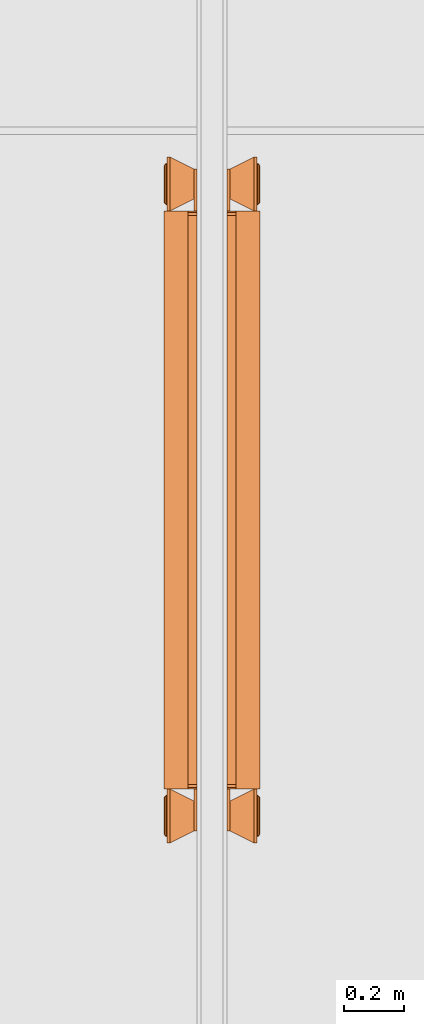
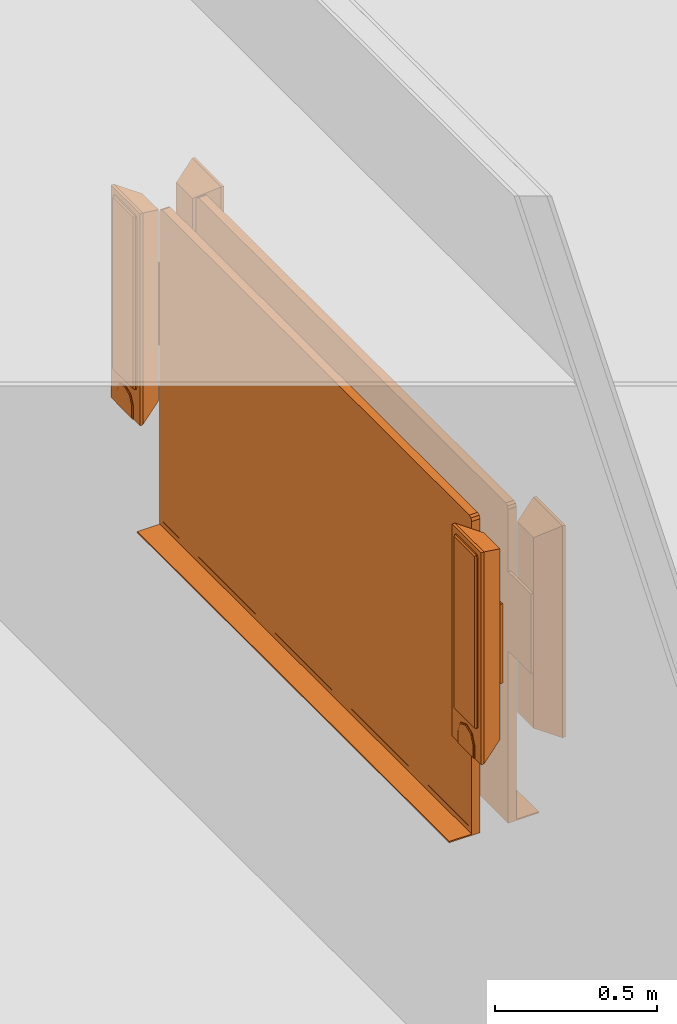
# One storey, part 87 of 167: 2 proxies.
"""IFC2X3 building model written with IfcOpenShell, lengths in millimetres."""

from ifc_helpers import new_model, entity, si_unit, converted_unit, derived_unit, money_unit, direction, frame, origin_with_axes, place, context, subcontext, project, spatial, faceted_brep, source, transform, mapped, type_object, type_shapes, element, save


model = new_model("IFC2X3")

# Units and contexts
model_context = context("Model", 3, precision=0.01, world=origin_with_axes(), true_north=direction((0.0, 1.0)))
plan_context = context("Plan", 3, precision=0.01, world=origin_with_axes(), true_north=direction((0.0, 1.0)))
body_context = subcontext(model_context, "Body", "Model", "MODEL_VIEW")
ifc_project = project(units=[si_unit("LENGTHUNIT", "METRE", prefix="MILLI"), si_unit("AREAUNIT", "SQUARE_METRE"), si_unit("VOLUMEUNIT", "CUBIC_METRE"), converted_unit("PLANEANGLEUNIT", "DEGREE", entity("IfcPlaneAngleMeasure", 0.0174532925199), si_unit("PLANEANGLEUNIT", "RADIAN"), dimensions=[0, 0, 0, 0, 0, 0, 0]), si_unit("SOLIDANGLEUNIT", "STERADIAN"), money_unit("EUR"), converted_unit("TIMEUNIT", "Year", entity("IfcTimeMeasure", 31556926.0), si_unit("TIMEUNIT", "SECOND"), dimensions=[0, 0, 1, 0, 0, 0, 0]), si_unit("MASSUNIT", "GRAM", prefix="KILO"), si_unit("THERMODYNAMICTEMPERATUREUNIT", "DEGREE_CELSIUS"), si_unit("LUMINOUSINTENSITYUNIT", "LUMEN"), si_unit("ENERGYUNIT", "JOULE", prefix="MEGA"), derived_unit("THERMALCONDUCTANCEUNIT", [(si_unit("POWERUNIT", "WATT"), 1), (si_unit("LENGTHUNIT", "METRE"), -1), (si_unit("THERMODYNAMICTEMPERATUREUNIT", "KELVIN"), -1)]), derived_unit("SPECIFICHEATCAPACITYUNIT", [(si_unit("ENERGYUNIT", "JOULE"), 1), (si_unit("MASSUNIT", "GRAM", prefix="KILO"), -1), (si_unit("THERMODYNAMICTEMPERATUREUNIT", "KELVIN"), -1)]), derived_unit("MASSDENSITYUNIT", [(si_unit("MASSUNIT", "GRAM", prefix="KILO"), 1), (si_unit("VOLUMEUNIT", "CUBIC_METRE"), -1)])], contexts=[model_context, plan_context])

# Site, building, storey
site_placement = place(None, origin_with_axes())
site = spatial("IfcSite", under=ifc_project, at=site_placement, Name="Site", CompositionType="ELEMENT")
building_placement = place(site_placement, origin_with_axes())
building = spatial("IfcBuilding", under=site, at=building_placement, Name="Naam gebouw", CompositionType="ELEMENT")
storey_placement = place(building_placement, origin_with_axes())
storey = spatial("IfcBuildingStorey", under=building, at=storey_placement, Name="Begane grond", CompositionType="ELEMENT", Elevation=0.0)

# Proxies
building_element_proxy_type = type_object("IfcBuildingElementProxyType", Name="Digitaal bord 24", PredefinedType="NOTDEFINED")
shared_shape_1 = source(origin_with_axes(), body_context, "Body", "Brep", [
    faceted_brep([(0.0, 0.0, 1000.0), (1930.0, 0.0, 1000.0), (1930.0, -30.0, 1000.0), (0.0, -30.0, 1000.0), (0.0, 0.0, 2185.0), (4.3933982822, 0.0, 2195.60660172), (15.0, 0.0, 2200.0), (1915.0, 0.0, 2200.0), (1925.60660172, 0.0, 2195.60660172), (1930.0, 0.0, 2185.0), (20.0, 0.0, 1025.0), (1910.0, 0.0, 1025.0), (1910.0, 0.0, 2180.0), (20.0, 0.0, 2180.0), (1930.0, -30.0, 2185.0), (1925.60660172, -30.0, 2195.60660172), (1915.0, -30.0, 2200.0), (15.0, -30.0, 2200.0), (4.3933982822, -30.0, 2195.60660172), (0.0, -30.0, 2185.0), (20.0, -30.0, 1025.0), (20.0, -30.0, 2180.0), (1910.0, -30.0, 2180.0), (1910.0, -30.0, 1025.0)], [[[0, 1, 2, 3]], [[0, 4, 5, 6, 7, 8, 9, 1], [10, 11, 12, 13]], [[1, 9, 14, 2]], [[3, 2, 14, 15, 16, 17, 18, 19], [20, 21, 22, 23]], [[4, 0, 3, 19]], [[5, 4, 19, 18]], [[6, 5, 18, 17]], [[7, 6, 17, 16]], [[8, 7, 16, 15]], [[9, 8, 15, 14]], [[11, 10, 20, 23]], [[12, 11, 23, 22]], [[13, 12, 22, 21]], [[10, 13, 21, 20]]]),
    faceted_brep([(20.0, 0.0, 1025.0), (1910.0, 0.0, 1025.0), (1910.0, -29.0, 1025.0), (20.0, -29.0, 1025.0), (20.0, 0.0, 2180.0), (1910.0, 0.0, 2180.0), (1910.0, -29.0, 2180.0), (20.0, -29.0, 2180.0)], [[[0, 1, 2, 3]], [[0, 4, 5, 1]], [[1, 5, 6, 2]], [[3, 2, 6, 7]], [[4, 0, 3, 7]], [[5, 4, 7, 6]]]),
    faceted_brep([(1930.0, -110.0, 1000.0), (0.0, -110.0, 1000.0), (0.0, -30.0, 1000.0), (1930.0, -30.0, 1000.0), (1930.0, -110.0, 1005.0), (0.0, -110.0, 1005.0), (0.0, -30.0, 1005.0), (1930.0, -30.0, 1005.0)], [[[0, 1, 2, 3]], [[1, 0, 4, 5]], [[2, 1, 5, 6]], [[3, 2, 6, 7]], [[0, 3, 7, 4]], [[5, 4, 7, 6]]]),
    faceted_brep([(0.0, -10.0, 1650.0), (-140.0, -10.0, 1650.0), (-140.0, 0.0, 1650.0), (0.0, 0.0, 1650.0), (0.0, -10.0, 1950.0), (-140.0, -10.0, 1950.0), (-140.0, 0.0, 1950.0), (0.0, 0.0, 1950.0)], [[[0, 1, 2, 3]], [[1, 0, 4, 5]], [[2, 1, 5, 6]], [[3, 2, 6, 7]], [[0, 3, 7, 4]], [[5, 4, 7, 6]]]),
    faceted_brep([(0.0, -100.0, 2200.0), (-180.0, -100.0, 2200.0), (-180.0, -100.0, 1400.0), (0.0, -100.0, 1400.0), (2.43782993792e-07, -90.0, 2200.00000039), (-180.00000039, -90.0, 2200.00000039), (-180.00000039, -90.0, 1399.99999964), (2.43782993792e-07, -90.0, 1399.99999964), (-39.9999997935, -9.99999992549, 2160.00000035), (-140.000000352, -9.99999992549, 2160.00000035), (-140.000000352, -9.99999992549, 1439.99999968), (-39.9999997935, -9.99999992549, 1439.99999968)], [[[0, 1, 2, 3]], [[1, 0, 4, 5]], [[2, 1, 5, 6]], [[3, 2, 6, 7]], [[0, 3, 7, 4]], [[5, 4, 8, 9]], [[6, 5, 9, 10]], [[7, 6, 10, 11]], [[4, 7, 11, 8]], [[10, 9, 8, 11]]]),
    faceted_brep([(-157.071067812, -100.0, 1522.92893219), (-160.0, -100.0, 1530.0), (-160.0, -100.0, 2170.0), (-157.071067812, -100.0, 2177.07106781), (-150.0, -100.0, 2180.0), (-30.0, -100.0, 2180.0), (-22.9289321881, -100.0, 2177.07106781), (-20.0, -100.0, 2170.0), (-20.0, -100.0, 1530.0), (-22.9289321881, -100.0, 1522.92893219), (-30.0, -100.0, 1520.0), (-150.0, -100.0, 1520.0), (-156.488467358, -103.826834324, 1523.51153264), (-159.238795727, -103.826834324, 1530.15141333), (-159.238795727, -103.826834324, 2169.84858696), (-156.488467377, -103.826834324, 2176.48846672), (-149.848586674, -103.826834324, 2179.2387951), (-30.1514125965, -103.826834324, 2179.2387951), (-23.5115328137, -103.826834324, 2176.48846674), (-20.761204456, -103.826834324, 2169.84858696), (-20.761204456, -103.826834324, 1530.15141333), (-23.5115328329, -103.826834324, 1523.51153262), (-30.1514125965, -103.826834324, 1520.76120427), (-149.848586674, -103.826834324, 1520.76120427), (-152.346331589, -109.238795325, 1527.65366841), (-153.826834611, -109.238795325, 1531.22791923), (-153.826834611, -109.238795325, 2168.77208092), (-152.346331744, -109.238795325, 2172.34633089), (-148.772080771, -109.238795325, 2173.82683398), (-31.2279186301, -109.238795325, 2173.82683398), (-27.6536685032, -109.238795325, 2172.34633105), (-26.1731655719, -109.238795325, 2168.77208092), (-26.1731655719, -109.238795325, 1531.22791923), (-27.6536686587, -109.238795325, 1527.65366826), (-31.2279186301, -109.238795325, 1526.17316539), (-148.772080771, -109.238795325, 1526.17316539), (-149.41740042, -109.999999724, 1530.58259958), (-150.000001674, -109.999999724, 1531.98912356), (-150.000001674, -109.999999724, 2168.0108765), (-149.417400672, -109.999999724, 2169.41739969), (-148.010876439, -109.999999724, 2170.00000104), (-31.9891230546, -109.999999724, 2170.00000104), (-30.5825996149, -109.999999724, 2169.41739994), (-29.9999985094, -109.999999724, 2168.0108765), (-29.9999985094, -109.999999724, 1531.98912356), (-30.5825998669, -109.999999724, 1530.58259933), (-31.9891230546, -109.999999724, 1529.99999833), (-148.010876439, -109.999999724, 1529.99999833)], [[[0, 1, 2, 3, 4, 5, 6, 7, 8, 9, 10, 11]], [[1, 0, 12, 13]], [[2, 1, 13, 14]], [[3, 2, 14, 15]], [[4, 3, 15, 16]], [[5, 4, 16, 17]], [[6, 5, 17, 18]], [[7, 6, 18, 19]], [[8, 7, 19, 20]], [[9, 8, 20, 21]], [[10, 9, 21, 22]], [[11, 10, 22, 23]], [[0, 11, 23, 12]], [[13, 12, 24, 25]], [[14, 13, 25, 26]], [[15, 14, 26, 27]], [[16, 15, 27, 28]], [[17, 16, 28, 29]], [[18, 17, 29, 30]], [[19, 18, 30, 31]], [[20, 19, 31, 32]], [[21, 20, 32, 33]], [[22, 21, 33, 34]], [[23, 22, 34, 35]], [[12, 23, 35, 24]], [[25, 24, 36, 37]], [[26, 25, 37, 38]], [[27, 26, 38, 39]], [[28, 27, 39, 40]], [[29, 28, 40, 41]], [[30, 29, 41, 42]], [[31, 30, 42, 43]], [[32, 31, 43, 44]], [[33, 32, 44, 45]], [[34, 33, 45, 46]], [[35, 34, 46, 47]], [[24, 35, 47, 36]], [[39, 38, 37, 36, 47, 46, 45, 44, 43, 42, 41, 40]]]),
    faceted_brep([(-40.0, -100.0, 1400.0), (-140.0, -100.0, 1400.0), (-140.0, -100.0, 1450.0), (-125.355339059, -100.0, 1485.35533906), (-90.0, -100.0, 1500.0), (-54.6446609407, -100.0, 1485.35533906), (-40.0, -100.0, 1450.0), (-40.380602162, -101.913417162, 1400.38060194), (-139.619398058, -101.913417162, 1400.38060194), (-139.619398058, -101.913417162, 1449.92429384), (-125.064038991, -101.913417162, 1485.06403877), (-89.9999996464, -101.913417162, 1499.58803917), (-54.9359612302, -101.913417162, 1485.06403877), (-40.380602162, -101.913417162, 1449.92429384), (-43.0865822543, -104.619397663, 1403.08658203), (-136.913417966, -104.619397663, 1403.08658203), (-136.913417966, -104.619397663, 1449.38604093), (-122.9929715, -104.619397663, 1482.99297126), (-89.99999966, -104.619397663, 1496.65910743), (-57.0070287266, -104.619397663, 1482.99297127), (-43.0865822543, -104.619397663, 1449.38604093), (-45.0000010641, -105.000000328, 1405.00000084), (-134.999999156, -105.000000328, 1405.00000084), (-134.999999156, -105.000000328, 1449.00543826), (-121.528504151, -105.000000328, 1481.52850389), (-89.9999996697, -105.000000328, 1494.58803784), (-58.4714960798, -105.000000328, 1481.52850392), (-45.0000010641, -105.000000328, 1449.00543826)], [[[0, 1, 2, 3, 4, 5, 6]], [[1, 0, 7, 8]], [[2, 1, 8, 9]], [[3, 2, 9, 10]], [[4, 3, 10, 11]], [[5, 4, 11, 12]], [[6, 5, 12, 13]], [[0, 6, 13, 7]], [[8, 7, 14, 15]], [[9, 8, 15, 16]], [[10, 9, 16, 17]], [[11, 10, 17, 18]], [[12, 11, 18, 19]], [[13, 12, 19, 20]], [[7, 13, 20, 14]], [[15, 14, 21, 22]], [[16, 15, 22, 23]], [[17, 16, 23, 24]], [[18, 17, 24, 25]], [[19, 18, 25, 26]], [[20, 19, 26, 27]], [[14, 20, 27, 21]], [[24, 23, 22, 21, 27, 26, 25]]]),
    faceted_brep([(1930.0, -10.0, 1650.0), (1930.0, 0.0, 1650.0), (2070.0, 0.0, 1650.0), (2070.0, -10.0, 1650.0), (1930.0, -10.0, 1950.0), (1930.0, 0.0, 1950.0), (2070.0, 0.0, 1950.0), (2070.0, -10.0, 1950.0)], [[[0, 1, 2, 3]], [[0, 4, 5, 1]], [[1, 5, 6, 2]], [[2, 6, 7, 3]], [[3, 7, 4, 0]], [[7, 6, 5, 4]]]),
    faceted_brep([(1930.0, -100.0, 2200.0), (1930.0, -100.0, 1400.0), (2110.0, -100.0, 1400.0), (2110.0, -100.0, 2200.0), (1929.99999976, -90.0, 2200.00000039), (1929.99999976, -90.0, 1399.99999964), (2110.00000039, -90.0, 1399.99999964), (2110.00000039, -90.0, 2200.00000039), (1969.99999979, -9.99999992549, 2160.00000035), (1969.99999979, -9.99999992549, 1439.99999968), (2070.00000035, -9.99999992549, 1439.99999968), (2070.00000035, -9.99999992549, 2160.00000035)], [[[0, 1, 2, 3]], [[0, 4, 5, 1]], [[1, 5, 6, 2]], [[2, 6, 7, 3]], [[3, 7, 4, 0]], [[4, 8, 9, 5]], [[5, 9, 10, 6]], [[6, 10, 11, 7]], [[7, 11, 8, 4]], [[10, 9, 8, 11]]]),
    faceted_brep([(2087.07106781, -100.0, 1522.92893219), (2080.0, -100.0, 1520.0), (1960.0, -100.0, 1520.0), (1952.92893219, -100.0, 1522.92893219), (1950.0, -100.0, 1530.0), (1950.0, -100.0, 2170.0), (1952.92893219, -100.0, 2177.07106781), (1960.0, -100.0, 2180.0), (2080.0, -100.0, 2180.0), (2087.07106781, -100.0, 2177.07106781), (2090.0, -100.0, 2170.0), (2090.0, -100.0, 1530.0), (2086.48846736, -103.826834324, 1523.51153264), (2079.84858667, -103.826834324, 1520.76120427), (1960.1514126, -103.826834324, 1520.76120427), (1953.51153283, -103.826834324, 1523.51153262), (1950.76120446, -103.826834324, 1530.15141333), (1950.76120446, -103.826834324, 2169.84858696), (1953.51153281, -103.826834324, 2176.48846674), (1960.1514126, -103.826834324, 2179.2387951), (2079.84858667, -103.826834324, 2179.2387951), (2086.48846738, -103.826834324, 2176.48846672), (2089.23879573, -103.826834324, 2169.84858696), (2089.23879573, -103.826834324, 1530.15141333), (2082.34633159, -109.238795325, 1527.65366841), (2078.77208077, -109.238795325, 1526.17316539), (1961.22791863, -109.238795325, 1526.17316539), (1957.65366866, -109.238795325, 1527.65366826), (1956.17316557, -109.238795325, 1531.22791923), (1956.17316557, -109.238795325, 2168.77208092), (1957.6536685, -109.238795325, 2172.34633105), (1961.22791863, -109.238795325, 2173.82683398), (2078.77208077, -109.238795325, 2173.82683398), (2082.34633174, -109.238795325, 2172.34633089), (2083.82683461, -109.238795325, 2168.77208092), (2083.82683461, -109.238795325, 1531.22791923), (2079.41740042, -109.999999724, 1530.58259958), (2078.01087644, -109.999999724, 1529.99999833), (1961.98912305, -109.999999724, 1529.99999833), (1960.58259987, -109.999999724, 1530.58259933), (1959.99999851, -109.999999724, 1531.98912356), (1959.99999851, -109.999999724, 2168.0108765), (1960.58259961, -109.999999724, 2169.41739994), (1961.98912305, -109.999999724, 2170.00000104), (2078.01087644, -109.999999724, 2170.00000104), (2079.41740067, -109.999999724, 2169.41739969), (2080.00000167, -109.999999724, 2168.0108765), (2080.00000167, -109.999999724, 1531.98912356)], [[[0, 1, 2, 3, 4, 5, 6, 7, 8, 9, 10, 11]], [[0, 12, 13, 1]], [[1, 13, 14, 2]], [[2, 14, 15, 3]], [[3, 15, 16, 4]], [[4, 16, 17, 5]], [[5, 17, 18, 6]], [[6, 18, 19, 7]], [[7, 19, 20, 8]], [[8, 20, 21, 9]], [[9, 21, 22, 10]], [[10, 22, 23, 11]], [[11, 23, 12, 0]], [[12, 24, 25, 13]], [[13, 25, 26, 14]], [[14, 26, 27, 15]], [[15, 27, 28, 16]], [[16, 28, 29, 17]], [[17, 29, 30, 18]], [[18, 30, 31, 19]], [[19, 31, 32, 20]], [[20, 32, 33, 21]], [[21, 33, 34, 22]], [[22, 34, 35, 23]], [[23, 35, 24, 12]], [[24, 36, 37, 25]], [[25, 37, 38, 26]], [[26, 38, 39, 27]], [[27, 39, 40, 28]], [[28, 40, 41, 29]], [[29, 41, 42, 30]], [[30, 42, 43, 31]], [[31, 43, 44, 32]], [[32, 44, 45, 33]], [[33, 45, 46, 34]], [[34, 46, 47, 35]], [[35, 47, 36, 24]], [[45, 44, 43, 42, 41, 40, 39, 38, 37, 36, 47, 46]]]),
    faceted_brep([(1970.0, -100.0, 1400.0), (1970.0, -100.0, 1450.0), (1984.64466094, -100.0, 1485.35533906), (2020.0, -100.0, 1500.0), (2055.35533906, -100.0, 1485.35533906), (2070.0, -100.0, 1450.0), (2070.0, -100.0, 1400.0), (1970.38060216, -101.913417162, 1400.38060194), (1970.38060216, -101.913417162, 1449.92429384), (1984.93596123, -101.913417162, 1485.06403877), (2019.99999965, -101.913417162, 1499.58803917), (2055.06403899, -101.913417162, 1485.06403877), (2069.61939806, -101.913417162, 1449.92429384), (2069.61939806, -101.913417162, 1400.38060194), (1973.08658225, -104.619397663, 1403.08658203), (1973.08658225, -104.619397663, 1449.38604093), (1987.00702873, -104.619397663, 1482.99297127), (2019.99999966, -104.619397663, 1496.65910743), (2052.9929715, -104.619397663, 1482.99297126), (2066.91341797, -104.619397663, 1449.38604093), (2066.91341797, -104.619397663, 1403.08658203), (1975.00000106, -105.000000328, 1405.00000084), (1975.00000106, -105.000000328, 1449.00543826), (1988.47149608, -105.000000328, 1481.52850392), (2019.99999967, -105.000000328, 1494.58803784), (2051.52850415, -105.000000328, 1481.52850389), (2064.99999916, -105.000000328, 1449.00543826), (2064.99999916, -105.000000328, 1405.00000084)], [[[0, 1, 2, 3, 4, 5, 6]], [[0, 7, 8, 1]], [[1, 8, 9, 2]], [[2, 9, 10, 3]], [[3, 10, 11, 4]], [[4, 11, 12, 5]], [[5, 12, 13, 6]], [[6, 13, 7, 0]], [[7, 14, 15, 8]], [[8, 15, 16, 9]], [[9, 16, 17, 10]], [[10, 17, 18, 11]], [[11, 18, 19, 12]], [[12, 19, 20, 13]], [[13, 20, 14, 7]], [[14, 21, 22, 15]], [[15, 22, 23, 16]], [[16, 23, 24, 17]], [[17, 24, 25, 18]], [[18, 25, 26, 19]], [[19, 26, 27, 20]], [[20, 27, 21, 14]], [[25, 24, 23, 22, 21, 27, 26]]]),
])
proxy_1_placement = place(storey_placement, frame((21550.0, 4892.99531028, 0.0), z_axis=(0.0, 0.0, 1.0), x_axis=(0.0, -1.0, 0.0)))
element("IfcBuildingElementProxy", 1, at=proxy_1_placement, inside=storey, type_object=building_element_proxy_type, Name="__object-x", context=body_context, shape_type="MappedRepresentation", body=[
    mapped(shared_shape_1, transform((0.0, 0.0, 0.0))),
])
shared_shape_2 = source(origin_with_axes(), body_context, "Body", "Brep", [
    faceted_brep([(0.0, 0.0, 1000.0), (0.0, -30.0, 1000.0), (-1930.0, -30.0, 1000.0), (-1930.0, 0.0, 1000.0), (0.0, 0.0, 2185.0), (0.0, -30.0, 2185.0), (-4.3933982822, -30.0, 2195.60660172), (-15.0, -30.0, 2200.0), (-1915.0, -30.0, 2200.0), (-1925.60660172, -30.0, 2195.60660172), (-1930.0, -30.0, 2185.0), (-20.0, -30.0, 1025.0), (-1910.0, -30.0, 1025.0), (-1910.0, -30.0, 2180.0), (-20.0, -30.0, 2180.0), (-1930.0, 0.0, 2185.0), (-1925.60660172, 0.0, 2195.60660172), (-1915.0, 0.0, 2200.0), (-15.0, 0.0, 2200.0), (-4.3933982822, 0.0, 2195.60660172), (-20.0, 0.0, 1025.0), (-20.0, 0.0, 2180.0), (-1910.0, 0.0, 2180.0), (-1910.0, 0.0, 1025.0)], [[[0, 1, 2, 3]], [[4, 5, 1, 0]], [[1, 5, 6, 7, 8, 9, 10, 2], [11, 12, 13, 14]], [[3, 2, 10, 15]], [[0, 3, 15, 16, 17, 18, 19, 4], [20, 21, 22, 23]], [[19, 6, 5, 4]], [[18, 7, 6, 19]], [[17, 8, 7, 18]], [[16, 9, 8, 17]], [[15, 10, 9, 16]], [[23, 12, 11, 20]], [[22, 13, 12, 23]], [[21, 14, 13, 22]], [[20, 11, 14, 21]]]),
    faceted_brep([(-20.0, 0.0, 1025.0), (-20.0, -29.0, 1025.0), (-1910.0, -29.0, 1025.0), (-1910.0, 0.0, 1025.0), (-20.0, 0.0, 2180.0), (-20.0, -29.0, 2180.0), (-1910.0, -29.0, 2180.0), (-1910.0, 0.0, 2180.0)], [[[0, 1, 2, 3]], [[4, 5, 1, 0]], [[1, 5, 6, 2]], [[3, 2, 6, 7]], [[0, 3, 7, 4]], [[7, 6, 5, 4]]]),
    faceted_brep([(-1930.0, -110.0, 1000.0), (-1930.0, -30.0, 1000.0), (0.0, -30.0, 1000.0), (0.0, -110.0, 1000.0), (-1930.0, -110.0, 1005.0), (-1930.0, -30.0, 1005.0), (0.0, -30.0, 1005.0), (0.0, -110.0, 1005.0)], [[[0, 1, 2, 3]], [[0, 4, 5, 1]], [[1, 5, 6, 2]], [[2, 6, 7, 3]], [[3, 7, 4, 0]], [[7, 6, 5, 4]]]),
    faceted_brep([(0.0, -10.0, 1650.0), (0.0, 0.0, 1650.0), (140.0, 0.0, 1650.0), (140.0, -10.0, 1650.0), (0.0, -10.0, 1950.0), (0.0, 0.0, 1950.0), (140.0, 0.0, 1950.0), (140.0, -10.0, 1950.0)], [[[0, 1, 2, 3]], [[0, 4, 5, 1]], [[1, 5, 6, 2]], [[2, 6, 7, 3]], [[3, 7, 4, 0]], [[7, 6, 5, 4]]]),
    faceted_brep([(0.0, -100.0, 2200.0), (0.0, -100.0, 1400.0), (180.0, -100.0, 1400.0), (180.0, -100.0, 2200.0), (-2.43782993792e-07, -90.0, 2200.00000039), (-2.43782993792e-07, -90.0, 1399.99999964), (180.00000039, -90.0, 1399.99999964), (180.00000039, -90.0, 2200.00000039), (39.9999997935, -9.99999992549, 2160.00000035), (39.9999997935, -9.99999992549, 1439.99999968), (140.000000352, -9.99999992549, 1439.99999968), (140.000000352, -9.99999992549, 2160.00000035)], [[[0, 1, 2, 3]], [[0, 4, 5, 1]], [[1, 5, 6, 2]], [[2, 6, 7, 3]], [[3, 7, 4, 0]], [[4, 8, 9, 5]], [[5, 9, 10, 6]], [[6, 10, 11, 7]], [[7, 11, 8, 4]], [[10, 9, 8, 11]]]),
    faceted_brep([(157.071067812, -100.0, 1522.92893219), (150.0, -100.0, 1520.0), (30.0, -100.0, 1520.0), (22.9289321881, -100.0, 1522.92893219), (20.0, -100.0, 1530.0), (20.0, -100.0, 2170.0), (22.9289321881, -100.0, 2177.07106781), (30.0, -100.0, 2180.0), (150.0, -100.0, 2180.0), (157.071067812, -100.0, 2177.07106781), (160.0, -100.0, 2170.0), (160.0, -100.0, 1530.0), (156.488467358, -103.826834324, 1523.51153264), (149.848586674, -103.826834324, 1520.76120427), (30.1514125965, -103.826834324, 1520.76120427), (23.5115328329, -103.826834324, 1523.51153262), (20.761204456, -103.826834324, 1530.15141333), (20.761204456, -103.826834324, 2169.84858696), (23.5115328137, -103.826834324, 2176.48846674), (30.1514125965, -103.826834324, 2179.2387951), (149.848586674, -103.826834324, 2179.2387951), (156.488467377, -103.826834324, 2176.48846672), (159.238795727, -103.826834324, 2169.84858696), (159.238795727, -103.826834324, 1530.15141333), (152.346331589, -109.238795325, 1527.65366841), (148.772080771, -109.238795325, 1526.17316539), (31.2279186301, -109.238795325, 1526.17316539), (27.6536686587, -109.238795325, 1527.65366826), (26.1731655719, -109.238795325, 1531.22791923), (26.1731655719, -109.238795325, 2168.77208092), (27.6536685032, -109.238795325, 2172.34633105), (31.2279186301, -109.238795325, 2173.82683398), (148.772080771, -109.238795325, 2173.82683398), (152.346331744, -109.238795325, 2172.34633089), (153.826834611, -109.238795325, 2168.77208092), (153.826834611, -109.238795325, 1531.22791923), (149.41740042, -109.999999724, 1530.58259958), (148.010876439, -109.999999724, 1529.99999833), (31.9891230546, -109.999999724, 1529.99999833), (30.5825998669, -109.999999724, 1530.58259933), (29.9999985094, -109.999999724, 1531.98912356), (29.9999985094, -109.999999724, 2168.0108765), (30.5825996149, -109.999999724, 2169.41739994), (31.9891230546, -109.999999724, 2170.00000104), (148.010876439, -109.999999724, 2170.00000104), (149.417400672, -109.999999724, 2169.41739969), (150.000001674, -109.999999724, 2168.0108765), (150.000001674, -109.999999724, 1531.98912356)], [[[0, 1, 2, 3, 4, 5, 6, 7, 8, 9, 10, 11]], [[0, 12, 13, 1]], [[1, 13, 14, 2]], [[2, 14, 15, 3]], [[3, 15, 16, 4]], [[4, 16, 17, 5]], [[5, 17, 18, 6]], [[6, 18, 19, 7]], [[7, 19, 20, 8]], [[8, 20, 21, 9]], [[9, 21, 22, 10]], [[10, 22, 23, 11]], [[11, 23, 12, 0]], [[12, 24, 25, 13]], [[13, 25, 26, 14]], [[14, 26, 27, 15]], [[15, 27, 28, 16]], [[16, 28, 29, 17]], [[17, 29, 30, 18]], [[18, 30, 31, 19]], [[19, 31, 32, 20]], [[20, 32, 33, 21]], [[21, 33, 34, 22]], [[22, 34, 35, 23]], [[23, 35, 24, 12]], [[24, 36, 37, 25]], [[25, 37, 38, 26]], [[26, 38, 39, 27]], [[27, 39, 40, 28]], [[28, 40, 41, 29]], [[29, 41, 42, 30]], [[30, 42, 43, 31]], [[31, 43, 44, 32]], [[32, 44, 45, 33]], [[33, 45, 46, 34]], [[34, 46, 47, 35]], [[35, 47, 36, 24]], [[45, 44, 43, 42, 41, 40, 39, 38, 37, 36, 47, 46]]]),
    faceted_brep([(40.0, -100.0, 1400.0), (40.0, -100.0, 1450.0), (54.6446609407, -100.0, 1485.35533906), (90.0, -100.0, 1500.0), (125.355339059, -100.0, 1485.35533906), (140.0, -100.0, 1450.0), (140.0, -100.0, 1400.0), (40.380602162, -101.913417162, 1400.38060194), (40.380602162, -101.913417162, 1449.92429384), (54.9359612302, -101.913417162, 1485.06403877), (89.9999996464, -101.913417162, 1499.58803917), (125.064038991, -101.913417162, 1485.06403877), (139.619398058, -101.913417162, 1449.92429384), (139.619398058, -101.913417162, 1400.38060194), (43.0865822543, -104.619397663, 1403.08658203), (43.0865822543, -104.619397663, 1449.38604093), (57.0070287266, -104.619397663, 1482.99297127), (89.99999966, -104.619397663, 1496.65910743), (122.9929715, -104.619397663, 1482.99297126), (136.913417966, -104.619397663, 1449.38604093), (136.913417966, -104.619397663, 1403.08658203), (45.0000010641, -105.000000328, 1405.00000084), (45.0000010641, -105.000000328, 1449.00543826), (58.4714960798, -105.000000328, 1481.52850392), (89.9999996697, -105.000000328, 1494.58803784), (121.528504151, -105.000000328, 1481.52850389), (134.999999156, -105.000000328, 1449.00543826), (134.999999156, -105.000000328, 1405.00000084)], [[[0, 1, 2, 3, 4, 5, 6]], [[0, 7, 8, 1]], [[1, 8, 9, 2]], [[2, 9, 10, 3]], [[3, 10, 11, 4]], [[4, 11, 12, 5]], [[5, 12, 13, 6]], [[6, 13, 7, 0]], [[7, 14, 15, 8]], [[8, 15, 16, 9]], [[9, 16, 17, 10]], [[10, 17, 18, 11]], [[11, 18, 19, 12]], [[12, 19, 20, 13]], [[13, 20, 14, 7]], [[14, 21, 22, 15]], [[15, 22, 23, 16]], [[16, 23, 24, 17]], [[17, 24, 25, 18]], [[18, 25, 26, 19]], [[19, 26, 27, 20]], [[20, 27, 21, 14]], [[25, 24, 23, 22, 21, 27, 26]]]),
    faceted_brep([(-1930.0, -10.0, 1650.0), (-2070.0, -10.0, 1650.0), (-2070.0, 0.0, 1650.0), (-1930.0, 0.0, 1650.0), (-1930.0, -10.0, 1950.0), (-2070.0, -10.0, 1950.0), (-2070.0, 0.0, 1950.0), (-1930.0, 0.0, 1950.0)], [[[0, 1, 2, 3]], [[1, 0, 4, 5]], [[2, 1, 5, 6]], [[3, 2, 6, 7]], [[0, 3, 7, 4]], [[5, 4, 7, 6]]]),
    faceted_brep([(-1930.0, -100.0, 2200.0), (-2110.0, -100.0, 2200.0), (-2110.0, -100.0, 1400.0), (-1930.0, -100.0, 1400.0), (-1929.99999976, -90.0, 2200.00000039), (-2110.00000039, -90.0, 2200.00000039), (-2110.00000039, -90.0, 1399.99999964), (-1929.99999976, -90.0, 1399.99999964), (-1969.99999979, -9.99999992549, 2160.00000035), (-2070.00000035, -9.99999992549, 2160.00000035), (-2070.00000035, -9.99999992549, 1439.99999968), (-1969.99999979, -9.99999992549, 1439.99999968)], [[[0, 1, 2, 3]], [[1, 0, 4, 5]], [[2, 1, 5, 6]], [[3, 2, 6, 7]], [[0, 3, 7, 4]], [[5, 4, 8, 9]], [[6, 5, 9, 10]], [[7, 6, 10, 11]], [[4, 7, 11, 8]], [[10, 9, 8, 11]]]),
    faceted_brep([(-2087.07106781, -100.0, 1522.92893219), (-2090.0, -100.0, 1530.0), (-2090.0, -100.0, 2170.0), (-2087.07106781, -100.0, 2177.07106781), (-2080.0, -100.0, 2180.0), (-1960.0, -100.0, 2180.0), (-1952.92893219, -100.0, 2177.07106781), (-1950.0, -100.0, 2170.0), (-1950.0, -100.0, 1530.0), (-1952.92893219, -100.0, 1522.92893219), (-1960.0, -100.0, 1520.0), (-2080.0, -100.0, 1520.0), (-2086.48846736, -103.826834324, 1523.51153264), (-2089.23879573, -103.826834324, 1530.15141333), (-2089.23879573, -103.826834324, 2169.84858696), (-2086.48846738, -103.826834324, 2176.48846672), (-2079.84858667, -103.826834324, 2179.2387951), (-1960.1514126, -103.826834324, 2179.2387951), (-1953.51153281, -103.826834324, 2176.48846674), (-1950.76120446, -103.826834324, 2169.84858696), (-1950.76120446, -103.826834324, 1530.15141333), (-1953.51153283, -103.826834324, 1523.51153262), (-1960.1514126, -103.826834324, 1520.76120427), (-2079.84858667, -103.826834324, 1520.76120427), (-2082.34633159, -109.238795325, 1527.65366841), (-2083.82683461, -109.238795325, 1531.22791923), (-2083.82683461, -109.238795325, 2168.77208092), (-2082.34633174, -109.238795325, 2172.34633089), (-2078.77208077, -109.238795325, 2173.82683398), (-1961.22791863, -109.238795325, 2173.82683398), (-1957.6536685, -109.238795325, 2172.34633105), (-1956.17316557, -109.238795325, 2168.77208092), (-1956.17316557, -109.238795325, 1531.22791923), (-1957.65366866, -109.238795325, 1527.65366826), (-1961.22791863, -109.238795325, 1526.17316539), (-2078.77208077, -109.238795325, 1526.17316539), (-2079.41740042, -109.999999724, 1530.58259958), (-2080.00000167, -109.999999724, 1531.98912356), (-2080.00000167, -109.999999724, 2168.0108765), (-2079.41740067, -109.999999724, 2169.41739969), (-2078.01087644, -109.999999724, 2170.00000104), (-1961.98912305, -109.999999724, 2170.00000104), (-1960.58259961, -109.999999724, 2169.41739994), (-1959.99999851, -109.999999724, 2168.0108765), (-1959.99999851, -109.999999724, 1531.98912356), (-1960.58259987, -109.999999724, 1530.58259933), (-1961.98912305, -109.999999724, 1529.99999833), (-2078.01087644, -109.999999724, 1529.99999833)], [[[0, 1, 2, 3, 4, 5, 6, 7, 8, 9, 10, 11]], [[1, 0, 12, 13]], [[2, 1, 13, 14]], [[3, 2, 14, 15]], [[4, 3, 15, 16]], [[5, 4, 16, 17]], [[6, 5, 17, 18]], [[7, 6, 18, 19]], [[8, 7, 19, 20]], [[9, 8, 20, 21]], [[10, 9, 21, 22]], [[11, 10, 22, 23]], [[0, 11, 23, 12]], [[13, 12, 24, 25]], [[14, 13, 25, 26]], [[15, 14, 26, 27]], [[16, 15, 27, 28]], [[17, 16, 28, 29]], [[18, 17, 29, 30]], [[19, 18, 30, 31]], [[20, 19, 31, 32]], [[21, 20, 32, 33]], [[22, 21, 33, 34]], [[23, 22, 34, 35]], [[12, 23, 35, 24]], [[25, 24, 36, 37]], [[26, 25, 37, 38]], [[27, 26, 38, 39]], [[28, 27, 39, 40]], [[29, 28, 40, 41]], [[30, 29, 41, 42]], [[31, 30, 42, 43]], [[32, 31, 43, 44]], [[33, 32, 44, 45]], [[34, 33, 45, 46]], [[35, 34, 46, 47]], [[24, 35, 47, 36]], [[39, 38, 37, 36, 47, 46, 45, 44, 43, 42, 41, 40]]]),
    faceted_brep([(-1970.0, -100.0, 1400.0), (-2070.0, -100.0, 1400.0), (-2070.0, -100.0, 1450.0), (-2055.35533906, -100.0, 1485.35533906), (-2020.0, -100.0, 1500.0), (-1984.64466094, -100.0, 1485.35533906), (-1970.0, -100.0, 1450.0), (-1970.38060216, -101.913417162, 1400.38060194), (-2069.61939806, -101.913417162, 1400.38060194), (-2069.61939806, -101.913417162, 1449.92429384), (-2055.06403899, -101.913417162, 1485.06403877), (-2019.99999965, -101.913417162, 1499.58803917), (-1984.93596123, -101.913417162, 1485.06403877), (-1970.38060216, -101.913417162, 1449.92429384), (-1973.08658225, -104.619397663, 1403.08658203), (-2066.91341797, -104.619397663, 1403.08658203), (-2066.91341797, -104.619397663, 1449.38604093), (-2052.9929715, -104.619397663, 1482.99297126), (-2019.99999966, -104.619397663, 1496.65910743), (-1987.00702873, -104.619397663, 1482.99297127), (-1973.08658225, -104.619397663, 1449.38604093), (-1975.00000106, -105.000000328, 1405.00000084), (-2064.99999916, -105.000000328, 1405.00000084), (-2064.99999916, -105.000000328, 1449.00543826), (-2051.52850415, -105.000000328, 1481.52850389), (-2019.99999967, -105.000000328, 1494.58803784), (-1988.47149608, -105.000000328, 1481.52850392), (-1975.00000106, -105.000000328, 1449.00543826)], [[[0, 1, 2, 3, 4, 5, 6]], [[1, 0, 7, 8]], [[2, 1, 8, 9]], [[3, 2, 9, 10]], [[4, 3, 10, 11]], [[5, 4, 11, 12]], [[6, 5, 12, 13]], [[0, 6, 13, 7]], [[8, 7, 14, 15]], [[9, 8, 15, 16]], [[10, 9, 16, 17]], [[11, 10, 17, 18]], [[12, 11, 18, 19]], [[13, 12, 19, 20]], [[7, 13, 20, 14]], [[15, 14, 21, 22]], [[16, 15, 22, 23]], [[17, 16, 23, 24]], [[18, 17, 24, 25]], [[19, 18, 25, 26]], [[20, 19, 26, 27]], [[14, 20, 27, 21]], [[24, 23, 22, 21, 27, 26, 25]]]),
])
type_shapes(building_element_proxy_type, [shared_shape_1, shared_shape_2])
proxy_2_placement = place(storey_placement, frame((21650.0, 4892.99531028, 0.0), z_axis=(0.0, 0.0, 1.0), x_axis=(0.0, 1.0, 0.0)))
element("IfcBuildingElementProxy", 2, at=proxy_2_placement, inside=storey, type_object=building_element_proxy_type, Name="__object-x", context=body_context, shape_type="MappedRepresentation", body=[
    mapped(shared_shape_2, transform((0.0, 0.0, 0.0))),
])

save(model, "model.ifc")
